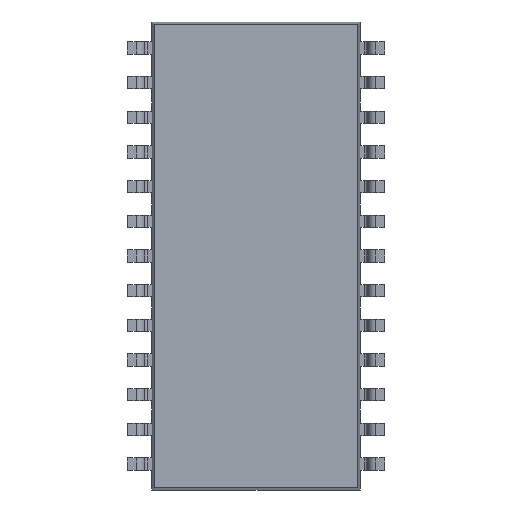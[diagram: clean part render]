
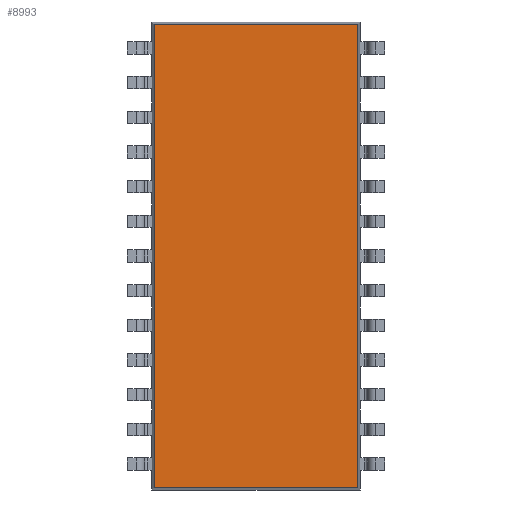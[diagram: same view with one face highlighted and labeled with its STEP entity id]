
A CAD part, front view. The second image highlights one B-rep face of the part: STEP entity #8993.
In plain terms, the highlighted planar face has unit normal (0, -1, 0).
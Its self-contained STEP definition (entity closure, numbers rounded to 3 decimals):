
#952 = EDGE_CURVE ( 'NONE', #9715, #9811, #8325, .T. ) ;
#3088 = DIRECTION ( 'NONE',  ( 0., 0., 1. ) ) ;
#3091 = CARTESIAN_POINT ( 'NONE',  ( 3.726, 0.1, 8.57 ) ) ;
#3197 = DIRECTION ( 'NONE',  ( 1., 0., 0. ) ) ;
#3200 = CARTESIAN_POINT ( 'NONE',  ( 3.81, 0.1, -8.486 ) ) ;
#3217 = DIRECTION ( 'NONE',  ( -1., 0., 0. ) ) ;
#3219 = CARTESIAN_POINT ( 'NONE',  ( 3.81, 0.1, 8.486 ) ) ;
#3266 = DIRECTION ( 'NONE',  ( 0., 0., -1. ) ) ;
#3406 = CARTESIAN_POINT ( 'NONE',  ( -3.726, 0.1, 8.57 ) ) ;
#5526 = CARTESIAN_POINT ( 'NONE',  ( 3.726, 0.1, 8.486 ) ) ;
#5762 = CARTESIAN_POINT ( 'NONE',  ( 3.726, 0.1, -8.486 ) ) ;
#6264 = CARTESIAN_POINT ( 'NONE',  ( -3.726, 0.1, -8.486 ) ) ;
#6313 = DIRECTION ( 'NONE',  ( 0., 0., 1. ) ) ;
#6323 = CARTESIAN_POINT ( 'NONE',  ( 0., 0.1, 0. ) ) ;
#6327 = DIRECTION ( 'NONE',  ( 0., 1., 0. ) ) ;
#6535 = EDGE_CURVE ( 'NONE', #9744, #9715, #7953, .T. ) ;
#6540 = EDGE_CURVE ( 'NONE', #9811, #9713, #7952, .T. ) ;
#6627 = PLANE ( 'NONE',  #11341 ) ;
#6895 = EDGE_CURVE ( 'NONE', #9713, #9744, #7883, .T. ) ;
#7003 = CARTESIAN_POINT ( 'NONE',  ( -3.726, 0.1, 8.486 ) ) ;
#7880 = VECTOR ( 'NONE', #3088, 1000. ) ;
#7883 = LINE ( 'NONE', #3091, #7880 ) ;
#7949 = VECTOR ( 'NONE', #3197, 1000. ) ;
#7951 = VECTOR ( 'NONE', #3217, 1000. ) ;
#7952 = LINE ( 'NONE', #3200, #7949 ) ;
#7953 = LINE ( 'NONE', #3219, #7951 ) ;
#8314 = VECTOR ( 'NONE', #3266, 1000. ) ;
#8325 = LINE ( 'NONE', #3406, #8314 ) ;
#8993 = ADVANCED_FACE ( 'NONE', ( #15058 ), #6627, .F. ) ;
#9607 = ORIENTED_EDGE ( 'NONE', *, *, #6535, .T. ) ;
#9608 = ORIENTED_EDGE ( 'NONE', *, *, #6895, .T. ) ;
#9609 = ORIENTED_EDGE ( 'NONE', *, *, #6540, .T. ) ;
#9610 = ORIENTED_EDGE ( 'NONE', *, *, #952, .T. ) ;
#9713 = VERTEX_POINT ( 'NONE', #5762 ) ;
#9715 = VERTEX_POINT ( 'NONE', #7003 ) ;
#9744 = VERTEX_POINT ( 'NONE', #5526 ) ;
#9811 = VERTEX_POINT ( 'NONE', #6264 ) ;
#11341 = AXIS2_PLACEMENT_3D ( 'NONE', #6323, #6327, #6313 ) ;
#15058 = FACE_OUTER_BOUND ( 'NONE', #15748, .T. ) ;
#15748 = EDGE_LOOP ( 'NONE', ( #9610, #9609, #9608, #9607 ) ) ;
